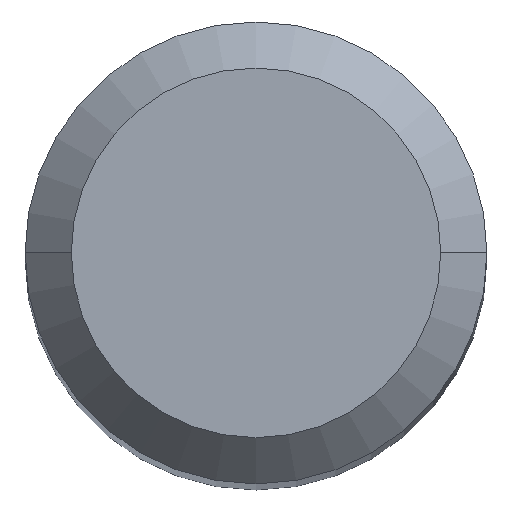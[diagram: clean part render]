
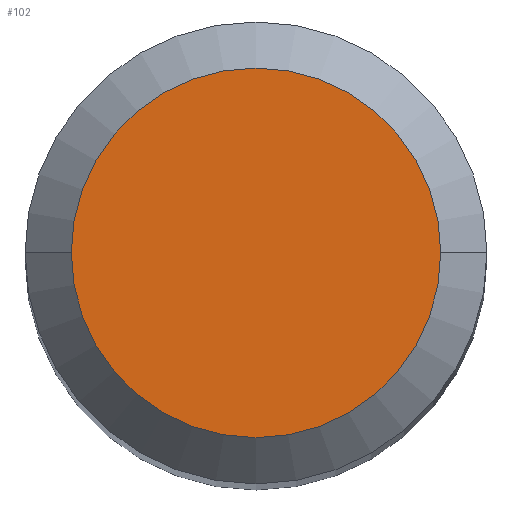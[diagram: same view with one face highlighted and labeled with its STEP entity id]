
A CAD part, top view. The second image highlights one B-rep face of the part: STEP entity #102.
In plain terms, the highlighted planar face has unit normal (0, 0, 1).
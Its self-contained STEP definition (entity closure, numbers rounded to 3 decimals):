
#13 = CIRCLE ( 'NONE', #97, 2.4 ) ;
#29 = EDGE_CURVE ( 'NONE', #293, #84, #568, .T. ) ;
#49 = AXIS2_PLACEMENT_3D ( 'NONE', #128, #375, #327 ) ;
#52 = EDGE_CURVE ( 'NONE', #84, #293, #13, .T. ) ;
#77 = DIRECTION ( 'NONE',  ( -1., 0., 0. ) ) ;
#84 = VERTEX_POINT ( 'NONE', #184 ) ;
#97 = AXIS2_PLACEMENT_3D ( 'NONE', #367, #514, #77 ) ;
#102 = ADVANCED_FACE ( 'NONE', ( #579 ), #571, .T. ) ;
#128 = CARTESIAN_POINT ( 'NONE',  ( 0., 2.4, 0. ) ) ;
#147 = EDGE_LOOP ( 'NONE', ( #381, #605 ) ) ;
#184 = CARTESIAN_POINT ( 'NONE',  ( 2.4, 0., 0. ) ) ;
#286 = CARTESIAN_POINT ( 'NONE',  ( -2.4, 0., 0. ) ) ;
#287 = AXIS2_PLACEMENT_3D ( 'NONE', #556, #415, #559 ) ;
#293 = VERTEX_POINT ( 'NONE', #286 ) ;
#327 = DIRECTION ( 'NONE',  ( 1., 0., 0. ) ) ;
#367 = CARTESIAN_POINT ( 'NONE',  ( 0., 0., 0. ) ) ;
#375 = DIRECTION ( 'NONE',  ( 0., 0., 1. ) ) ;
#381 = ORIENTED_EDGE ( 'NONE', *, *, #29, .F. ) ;
#415 = DIRECTION ( 'NONE',  ( 0., 0., -1. ) ) ;
#514 = DIRECTION ( 'NONE',  ( 0., 0., -1. ) ) ;
#556 = CARTESIAN_POINT ( 'NONE',  ( 0., 0., 0. ) ) ;
#559 = DIRECTION ( 'NONE',  ( -1., 0., 0. ) ) ;
#568 = CIRCLE ( 'NONE', #287, 2.4 ) ;
#571 = PLANE ( 'NONE',  #49 ) ;
#579 = FACE_OUTER_BOUND ( 'NONE', #147, .T. ) ;
#605 = ORIENTED_EDGE ( 'NONE', *, *, #52, .F. ) ;
